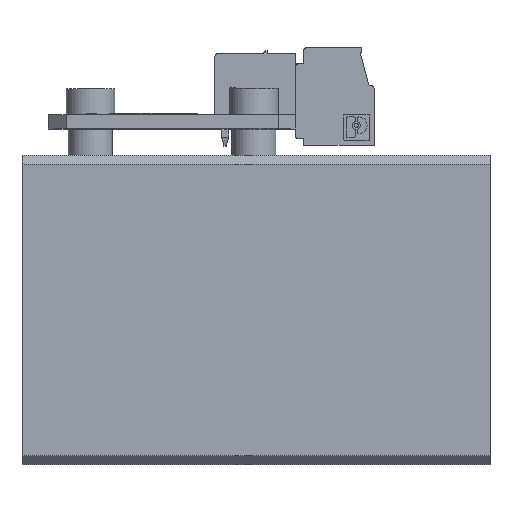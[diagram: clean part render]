
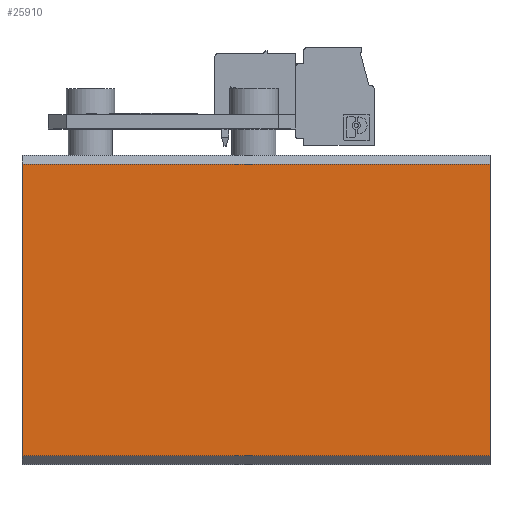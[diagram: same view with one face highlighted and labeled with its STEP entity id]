
A CAD part, top view. The second image highlights one B-rep face of the part: STEP entity #25910.
In plain terms, the highlighted planar face has unit normal (0, 0, 1).
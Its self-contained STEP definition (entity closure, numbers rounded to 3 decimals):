
#1119 = EDGE_CURVE ( 'NONE', #13136, #7427, #16174, .T. ) ;
#2254 = CARTESIAN_POINT ( 'NONE',  ( 53., -17.5, 17.5 ) ) ;
#2342 = CARTESIAN_POINT ( 'NONE',  ( 53., -16.5, 17.5 ) ) ;
#3090 = EDGE_CURVE ( 'NONE', #13136, #24651, #24458, .T. ) ;
#3713 = LINE ( 'NONE', #24415, #15003 ) ;
#4013 = EDGE_CURVE ( 'NONE', #15713, #24651, #14903, .T. ) ;
#4883 = VECTOR ( 'NONE', #14013, 1000. ) ;
#6433 = ORIENTED_EDGE ( 'NONE', *, *, #3090, .F. ) ;
#7427 = VERTEX_POINT ( 'NONE', #26857 ) ;
#7462 = DIRECTION ( 'NONE',  ( 0., 0., -1. ) ) ;
#8504 = CARTESIAN_POINT ( 'NONE',  ( 53., -16.5, 17.5 ) ) ;
#10659 = DIRECTION ( 'NONE',  ( 1., 0., 0. ) ) ;
#11626 = PLANE ( 'NONE',  #22274 ) ;
#12471 = VECTOR ( 'NONE', #21396, 1000. ) ;
#13136 = VERTEX_POINT ( 'NONE', #25191 ) ;
#14013 = DIRECTION ( 'NONE',  ( -1., 0., 0. ) ) ;
#14815 = FACE_OUTER_BOUND ( 'NONE', #24810, .T. ) ;
#14903 = LINE ( 'NONE', #8504, #25594 ) ;
#15003 = VECTOR ( 'NONE', #24324, 1000. ) ;
#15713 = VERTEX_POINT ( 'NONE', #18464 ) ;
#16174 = LINE ( 'NONE', #24686, #4883 ) ;
#17930 = EDGE_CURVE ( 'NONE', #7427, #15713, #3713, .T. ) ;
#18213 = ORIENTED_EDGE ( 'NONE', *, *, #1119, .T. ) ;
#18464 = CARTESIAN_POINT ( 'NONE',  ( 0., -16.5, 17.5 ) ) ;
#20212 = CARTESIAN_POINT ( 'NONE',  ( 53., -17.5, 17.5 ) ) ;
#20423 = ORIENTED_EDGE ( 'NONE', *, *, #17930, .T. ) ;
#21396 = DIRECTION ( 'NONE',  ( 0., -1., 0. ) ) ;
#22274 = AXIS2_PLACEMENT_3D ( 'NONE', #20212, #7462, #22337 ) ;
#22337 = DIRECTION ( 'NONE',  ( -1., 0., 0. ) ) ;
#23680 = ORIENTED_EDGE ( 'NONE', *, *, #4013, .T. ) ;
#24324 = DIRECTION ( 'NONE',  ( 0., -1., 0. ) ) ;
#24415 = CARTESIAN_POINT ( 'NONE',  ( 0., -17.5, 17.5 ) ) ;
#24458 = LINE ( 'NONE', #2254, #12471 ) ;
#24651 = VERTEX_POINT ( 'NONE', #2342 ) ;
#24686 = CARTESIAN_POINT ( 'NONE',  ( 53., 16.5, 17.5 ) ) ;
#24810 = EDGE_LOOP ( 'NONE', ( #20423, #23680, #6433, #18213 ) ) ;
#25191 = CARTESIAN_POINT ( 'NONE',  ( 53., 16.5, 17.5 ) ) ;
#25594 = VECTOR ( 'NONE', #10659, 1000. ) ;
#25910 = ADVANCED_FACE ( 'NONE', ( #14815 ), #11626, .F. ) ;
#26857 = CARTESIAN_POINT ( 'NONE',  ( 0., 16.5, 17.5 ) ) ;
